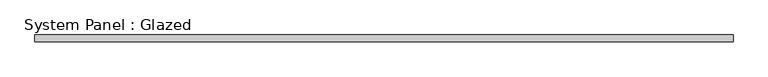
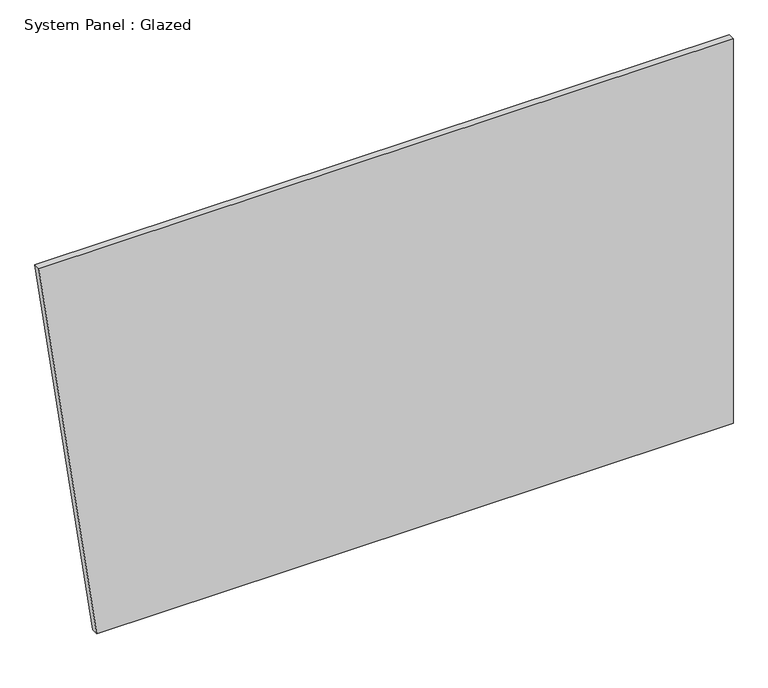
"""IFC4 building model written with IfcOpenShell, lengths in millimetres: plate geometry, System Panel : Glazed."""

from ifc_helpers import new_model, si_unit, frame, origin, place, context, project, spatial, polyline, outline, extrude, source, transform, mapped, element, save


def system_panel_glazed_8fa230d7(model_context):
    return source(origin(), model_context, "Body", "SweptSolid", [
        extrude(outline(polyline([(0.0, -1085.2267757), (0.0, 1302.2721308), (1524.0, 1302.2721308), (1524.0, -1302.2721308), (0.0, -1085.2267757)])), frame((0.0, 19.05, 0.0), z_axis=(0.0, 1.0, 0.0), x_axis=(0.0, 0.0, 1.0)), (0.0, 0.0, 1.0), 25.4),
    ])


if __name__ == "__main__":
    model = new_model("IFC4")
    model_context = context("Model", 3, world=origin())
    ifc_project = project(units=[si_unit("LENGTHUNIT", "METRE", prefix="MILLI")], contexts=[model_context])
    site = spatial("IfcSite", under=ifc_project)
    building = spatial("IfcBuilding", under=site)
    placement = place(None, origin())
    system_panel_glazed_shape = system_panel_glazed_8fa230d7(model_context)
    element("IfcPlate", 1, ObjectType="System Panel : Glazed", at=placement, inside=building, context=model_context, shape_type="MappedRepresentation", body=[
        mapped(system_panel_glazed_shape, transform((0.0, 0.0, 0.0), x_axis=(1.0, 0.0, 0.0), y_axis=(0.0, 1.0, 0.0), z_axis=(0.0, 0.0, 1.0))),
    ])
    save(model, "model.ifc")
